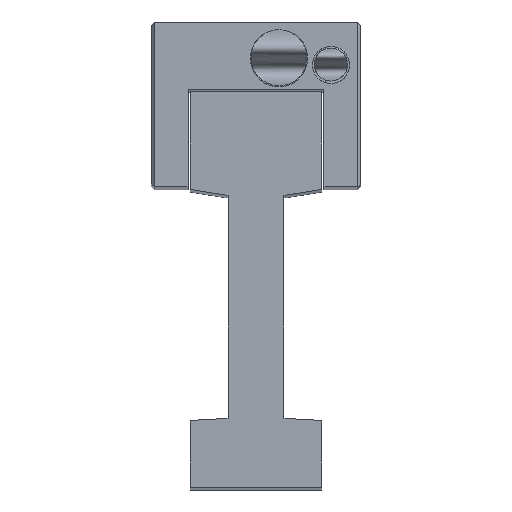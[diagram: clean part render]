
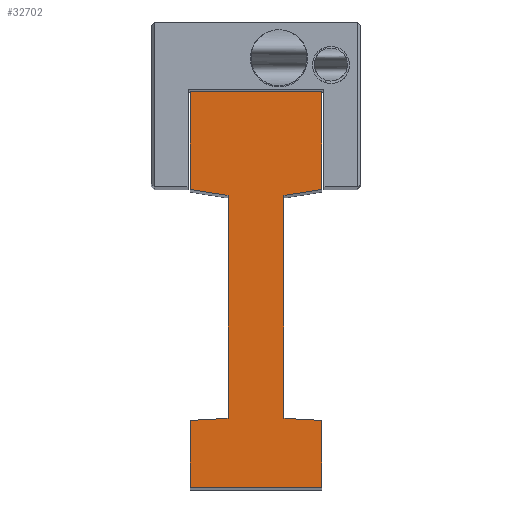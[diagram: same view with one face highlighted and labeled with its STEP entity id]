
A CAD part, top view. The second image highlights one B-rep face of the part: STEP entity #32702.
In plain terms, the highlighted planar face has unit normal (0, 0, 1).
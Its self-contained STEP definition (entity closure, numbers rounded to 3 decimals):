
#698 = CARTESIAN_POINT ( 'NONE',  ( -6.6, -39.6, 0. ) ) ;
#994 = EDGE_CURVE ( 'NONE', #15328, #9734, #20405, .T. ) ;
#999 = VERTEX_POINT ( 'NONE', #29406 ) ;
#1157 = CARTESIAN_POINT ( 'NONE',  ( -6.6, -32.9, 0. ) ) ;
#1215 = CARTESIAN_POINT ( 'NONE',  ( -6.6, -9.8, 0. ) ) ;
#1527 = VERTEX_POINT ( 'NONE', #27256 ) ;
#2465 = DIRECTION ( 'NONE',  ( 0., 1., 0. ) ) ;
#3154 = FACE_OUTER_BOUND ( 'NONE', #12062, .T. ) ;
#4259 = VECTOR ( 'NONE', #11067, 1000. ) ;
#4591 = LINE ( 'NONE', #8137, #13411 ) ;
#4979 = ORIENTED_EDGE ( 'NONE', *, *, #30406, .T. ) ;
#5127 = CARTESIAN_POINT ( 'NONE',  ( 2.8, -10.4, 0. ) ) ;
#5180 = ORIENTED_EDGE ( 'NONE', *, *, #24789, .T. ) ;
#5200 = LINE ( 'NONE', #10967, #18605 ) ;
#6472 = DIRECTION ( 'NONE',  ( 0., 1., 0. ) ) ;
#7186 = DIRECTION ( 'NONE',  ( 1., 0., 0. ) ) ;
#7684 = VERTEX_POINT ( 'NONE', #1215 ) ;
#7802 = EDGE_CURVE ( 'NONE', #12071, #999, #22939, .T. ) ;
#7867 = LINE ( 'NONE', #17671, #29091 ) ;
#8137 = CARTESIAN_POINT ( 'NONE',  ( -2.8, -32.7, 0. ) ) ;
#8271 = DIRECTION ( 'NONE',  ( 0., -1., 0. ) ) ;
#8732 = VERTEX_POINT ( 'NONE', #18909 ) ;
#9168 = EDGE_CURVE ( 'NONE', #10629, #24046, #24949, .T. ) ;
#9212 = ORIENTED_EDGE ( 'NONE', *, *, #26927, .T. ) ;
#9713 = ORIENTED_EDGE ( 'NONE', *, *, #31719, .T. ) ;
#9734 = VERTEX_POINT ( 'NONE', #34235 ) ;
#9942 = CARTESIAN_POINT ( 'NONE',  ( 6.6, 0., 0. ) ) ;
#10222 = CARTESIAN_POINT ( 'NONE',  ( -6.6, -9.8, 0. ) ) ;
#10223 = ORIENTED_EDGE ( 'NONE', *, *, #7802, .T. ) ;
#10564 = DIRECTION ( 'NONE',  ( 0., 1., 0. ) ) ;
#10629 = VERTEX_POINT ( 'NONE', #9942 ) ;
#10967 = CARTESIAN_POINT ( 'NONE',  ( -2.8, -10.4, 0. ) ) ;
#11067 = DIRECTION ( 'NONE',  ( 0., -1., 0. ) ) ;
#12062 = EDGE_LOOP ( 'NONE', ( #31639, #28241, #4979, #18300, #28167, #27432, #9713, #5180, #9212, #10223, #17621, #28523 ) ) ;
#12071 = VERTEX_POINT ( 'NONE', #22945 ) ;
#12385 = LINE ( 'NONE', #10222, #32764 ) ;
#13035 = CARTESIAN_POINT ( 'NONE',  ( 6.6, -39.6, 0. ) ) ;
#13411 = VECTOR ( 'NONE', #16216, 1000. ) ;
#13448 = AXIS2_PLACEMENT_3D ( 'NONE', #31508, #34228, #18278 ) ;
#13864 = EDGE_CURVE ( 'NONE', #8732, #19831, #4591, .T. ) ;
#14138 = VECTOR ( 'NONE', #10564, 1000. ) ;
#14776 = CARTESIAN_POINT ( 'NONE',  ( 2.8, -10.4, 0. ) ) ;
#15328 = VERTEX_POINT ( 'NONE', #14776 ) ;
#15854 = CARTESIAN_POINT ( 'NONE',  ( 6.6, -32.9, 0. ) ) ;
#16216 = DIRECTION ( 'NONE',  ( -0.999, -0.053, 0. ) ) ;
#16702 = VECTOR ( 'NONE', #23412, 1000. ) ;
#16744 = CARTESIAN_POINT ( 'NONE',  ( 6.6, -9.8, 0. ) ) ;
#17060 = VECTOR ( 'NONE', #33341, 1000. ) ;
#17540 = DIRECTION ( 'NONE',  ( 0.988, 0.156, 0. ) ) ;
#17621 = ORIENTED_EDGE ( 'NONE', *, *, #24899, .T. ) ;
#17671 = CARTESIAN_POINT ( 'NONE',  ( 6.6, -39.6, 0. ) ) ;
#17720 = CARTESIAN_POINT ( 'NONE',  ( -6.6, -32.9, 0. ) ) ;
#18078 = CARTESIAN_POINT ( 'NONE',  ( 2.8, -32.7, 0. ) ) ;
#18278 = DIRECTION ( 'NONE',  ( -1., 0., 0. ) ) ;
#18300 = ORIENTED_EDGE ( 'NONE', *, *, #23176, .T. ) ;
#18605 = VECTOR ( 'NONE', #8271, 1000. ) ;
#18909 = CARTESIAN_POINT ( 'NONE',  ( -2.8, -32.7, 0. ) ) ;
#19831 = VERTEX_POINT ( 'NONE', #1157 ) ;
#20405 = LINE ( 'NONE', #16744, #25797 ) ;
#20856 = VERTEX_POINT ( 'NONE', #698 ) ;
#21147 = VECTOR ( 'NONE', #2465, 1000. ) ;
#22468 = LINE ( 'NONE', #17720, #29489 ) ;
#22736 = CARTESIAN_POINT ( 'NONE',  ( -6.6, 0., 0. ) ) ;
#22939 = LINE ( 'NONE', #18078, #16702 ) ;
#22945 = CARTESIAN_POINT ( 'NONE',  ( 6.6, -32.9, 0. ) ) ;
#23176 = EDGE_CURVE ( 'NONE', #7684, #1527, #12385, .T. ) ;
#23233 = VERTEX_POINT ( 'NONE', #13035 ) ;
#23412 = DIRECTION ( 'NONE',  ( -0.999, 0.053, 0. ) ) ;
#23975 = VECTOR ( 'NONE', #6472, 1000. ) ;
#24046 = VERTEX_POINT ( 'NONE', #26985 ) ;
#24142 = EDGE_CURVE ( 'NONE', #9734, #10629, #31053, .T. ) ;
#24314 = CARTESIAN_POINT ( 'NONE',  ( -6.6, 0., 0. ) ) ;
#24789 = EDGE_CURVE ( 'NONE', #20856, #23233, #7867, .T. ) ;
#24899 = EDGE_CURVE ( 'NONE', #999, #15328, #34553, .T. ) ;
#24949 = LINE ( 'NONE', #22736, #17060 ) ;
#25712 = LINE ( 'NONE', #15854, #21147 ) ;
#25797 = VECTOR ( 'NONE', #17540, 1000. ) ;
#26927 = EDGE_CURVE ( 'NONE', #23233, #12071, #25712, .T. ) ;
#26985 = CARTESIAN_POINT ( 'NONE',  ( -6.6, 0., 0. ) ) ;
#27256 = CARTESIAN_POINT ( 'NONE',  ( -2.8, -10.4, 0. ) ) ;
#27432 = ORIENTED_EDGE ( 'NONE', *, *, #13864, .T. ) ;
#27724 = EDGE_CURVE ( 'NONE', #1527, #8732, #5200, .T. ) ;
#28167 = ORIENTED_EDGE ( 'NONE', *, *, #27724, .T. ) ;
#28241 = ORIENTED_EDGE ( 'NONE', *, *, #9168, .T. ) ;
#28523 = ORIENTED_EDGE ( 'NONE', *, *, #994, .T. ) ;
#28815 = DIRECTION ( 'NONE',  ( 0.988, -0.156, 0. ) ) ;
#29091 = VECTOR ( 'NONE', #7186, 1000. ) ;
#29406 = CARTESIAN_POINT ( 'NONE',  ( 2.8, -32.7, 0. ) ) ;
#29489 = VECTOR ( 'NONE', #30961, 1000. ) ;
#30406 = EDGE_CURVE ( 'NONE', #24046, #7684, #32652, .T. ) ;
#30961 = DIRECTION ( 'NONE',  ( 0., -1., 0. ) ) ;
#31053 = LINE ( 'NONE', #32952, #23975 ) ;
#31395 = PLANE ( 'NONE',  #13448 ) ;
#31508 = CARTESIAN_POINT ( 'NONE',  ( 0., 0., 0. ) ) ;
#31639 = ORIENTED_EDGE ( 'NONE', *, *, #24142, .T. ) ;
#31719 = EDGE_CURVE ( 'NONE', #19831, #20856, #22468, .T. ) ;
#32652 = LINE ( 'NONE', #24314, #4259 ) ;
#32702 = ADVANCED_FACE ( 'NONE', ( #3154 ), #31395, .F. ) ;
#32764 = VECTOR ( 'NONE', #28815, 1000. ) ;
#32952 = CARTESIAN_POINT ( 'NONE',  ( 6.6, 0., 0. ) ) ;
#33341 = DIRECTION ( 'NONE',  ( -1., 0., 0. ) ) ;
#34228 = DIRECTION ( 'NONE',  ( 0., 0., -1. ) ) ;
#34235 = CARTESIAN_POINT ( 'NONE',  ( 6.6, -9.8, 0. ) ) ;
#34553 = LINE ( 'NONE', #5127, #14138 ) ;
